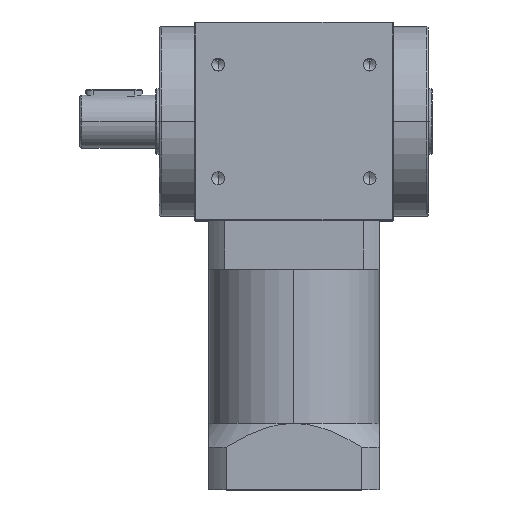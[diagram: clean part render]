
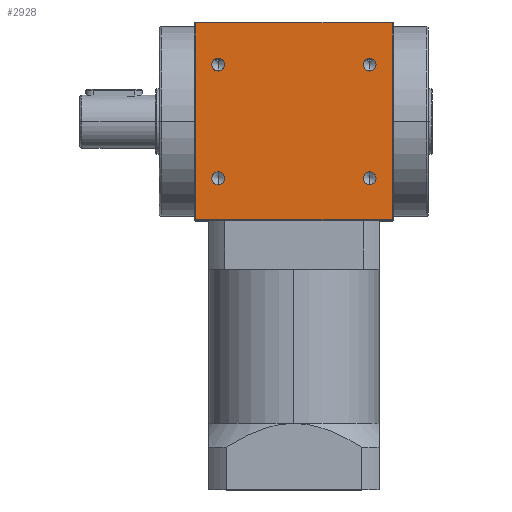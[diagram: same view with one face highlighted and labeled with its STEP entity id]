
A CAD part, top view. The second image highlights one B-rep face of the part: STEP entity #2928.
In plain terms, the highlighted planar face has unit normal (0, 0, 1).
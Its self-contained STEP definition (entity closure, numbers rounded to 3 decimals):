
#76 = VERTEX_POINT ( 'NONE', #6236 ) ;
#198 = EDGE_CURVE ( 'NONE', #7281, #4030, #6293, .T. ) ;
#220 = EDGE_CURVE ( 'NONE', #536, #715, #2774, .T. ) ;
#256 = EDGE_CURVE ( 'NONE', #1631, #2220, #698, .T. ) ;
#271 = EDGE_CURVE ( 'NONE', #459, #1484, #552, .T. ) ;
#383 = DIRECTION ( 'NONE',  ( 0., 0., 1. ) ) ;
#450 = EDGE_CURVE ( 'NONE', #7748, #7417, #6952, .T. ) ;
#459 = VERTEX_POINT ( 'NONE', #8191 ) ;
#463 = EDGE_CURVE ( 'NONE', #7417, #1918, #5441, .T. ) ;
#487 = EDGE_CURVE ( 'NONE', #1918, #76, #5657, .T. ) ;
#490 = EDGE_CURVE ( 'NONE', #76, #7748, #6283, .T. ) ;
#536 = VERTEX_POINT ( 'NONE', #5903 ) ;
#538 = CARTESIAN_POINT ( 'NONE',  ( 52., 52., 52.5 ) ) ;
#548 = DIRECTION ( 'NONE',  ( 0., 0., 1. ) ) ;
#552 = CIRCLE ( 'NONE', #6665, 3.4 ) ;
#615 = CARTESIAN_POINT ( 'NONE',  ( 40., -26.6, 52.5 ) ) ;
#698 = CIRCLE ( 'NONE', #6755, 3.4 ) ;
#711 = CARTESIAN_POINT ( 'NONE',  ( -40., -26.6, 52.5 ) ) ;
#715 = VERTEX_POINT ( 'NONE', #711 ) ;
#1027 = ORIENTED_EDGE ( 'NONE', *, *, #5943, .F. ) ;
#1042 = CIRCLE ( 'NONE', #2473, 3.4 ) ;
#1351 = FACE_BOUND ( 'NONE', #3011, .T. ) ;
#1484 = VERTEX_POINT ( 'NONE', #2940 ) ;
#1631 = VERTEX_POINT ( 'NONE', #3493 ) ;
#1721 = ORIENTED_EDGE ( 'NONE', *, *, #198, .F. ) ;
#1739 = CARTESIAN_POINT ( 'NONE',  ( 0., 0., 52.5 ) ) ;
#1746 = ORIENTED_EDGE ( 'NONE', *, *, #6607, .F. ) ;
#1918 = VERTEX_POINT ( 'NONE', #8339 ) ;
#2174 = AXIS2_PLACEMENT_3D ( 'NONE', #4412, #383, #5095 ) ;
#2201 = AXIS2_PLACEMENT_3D ( 'NONE', #6983, #3003, #7613 ) ;
#2220 = VERTEX_POINT ( 'NONE', #3099 ) ;
#2243 = ORIENTED_EDGE ( 'NONE', *, *, #6643, .F. ) ;
#2402 = FACE_BOUND ( 'NONE', #8332, .T. ) ;
#2425 = DIRECTION ( 'NONE',  ( -1., 0., 0. ) ) ;
#2472 = DIRECTION ( 'NONE',  ( 0., -1., 0. ) ) ;
#2473 = AXIS2_PLACEMENT_3D ( 'NONE', #7549, #3593, #8215 ) ;
#2499 = DIRECTION ( 'NONE',  ( 0., 0., 1. ) ) ;
#2568 = CARTESIAN_POINT ( 'NONE',  ( -40., 30., 52.5 ) ) ;
#2611 = AXIS2_PLACEMENT_3D ( 'NONE', #4573, #548, #5247 ) ;
#2774 = CIRCLE ( 'NONE', #6875, 3.4 ) ;
#2856 = CIRCLE ( 'NONE', #2174, 3.4 ) ;
#2928 = ADVANCED_FACE ( 'NONE', ( #6160, #1351, #2402, #7285, #3220 ), #6405, .F. ) ;
#2940 = CARTESIAN_POINT ( 'NONE',  ( -40., 33.4, 52.5 ) ) ;
#2945 = CARTESIAN_POINT ( 'NONE',  ( 52., -52., 52.5 ) ) ;
#3003 = DIRECTION ( 'NONE',  ( 0., 0., 1. ) ) ;
#3011 = EDGE_LOOP ( 'NONE', ( #5435, #6599 ) ) ;
#3012 = DIRECTION ( 'NONE',  ( 0., -1., 0. ) ) ;
#3066 = DIRECTION ( 'NONE',  ( 0., 0., 1. ) ) ;
#3091 = CARTESIAN_POINT ( 'NONE',  ( 40., 30., 52.5 ) ) ;
#3099 = CARTESIAN_POINT ( 'NONE',  ( 40., 33.4, 52.5 ) ) ;
#3220 = FACE_BOUND ( 'NONE', #4637, .T. ) ;
#3493 = CARTESIAN_POINT ( 'NONE',  ( 40., 26.6, 52.5 ) ) ;
#3593 = DIRECTION ( 'NONE',  ( 0., 0., 1. ) ) ;
#3594 = VECTOR ( 'NONE', #8132, 1000. ) ;
#3787 = AXIS2_PLACEMENT_3D ( 'NONE', #1739, #6440, #2425 ) ;
#3873 = ORIENTED_EDGE ( 'NONE', *, *, #450, .T. ) ;
#4030 = VERTEX_POINT ( 'NONE', #615 ) ;
#4196 = DIRECTION ( 'NONE',  ( 0., -1., 0. ) ) ;
#4215 = DIRECTION ( 'NONE',  ( 0., 0., 1. ) ) ;
#4224 = CARTESIAN_POINT ( 'NONE',  ( -40., -30., 52.5 ) ) ;
#4412 = CARTESIAN_POINT ( 'NONE',  ( -40., -30., 52.5 ) ) ;
#4573 = CARTESIAN_POINT ( 'NONE',  ( -40., 30., 52.5 ) ) ;
#4637 = EDGE_LOOP ( 'NONE', ( #1721, #1746 ) ) ;
#4734 = VECTOR ( 'NONE', #7070, 1000. ) ;
#4807 = ORIENTED_EDGE ( 'NONE', *, *, #463, .T. ) ;
#4843 = DIRECTION ( 'NONE',  ( 0., -1., 0. ) ) ;
#4884 = DIRECTION ( 'NONE',  ( 0., 0., 1. ) ) ;
#4900 = CARTESIAN_POINT ( 'NONE',  ( 40., -30., 52.5 ) ) ;
#5095 = DIRECTION ( 'NONE',  ( 0., -1., 0. ) ) ;
#5236 = EDGE_CURVE ( 'NONE', #1484, #459, #7681, .T. ) ;
#5247 = DIRECTION ( 'NONE',  ( 0., -1., 0. ) ) ;
#5295 = EDGE_LOOP ( 'NONE', ( #3873, #4807, #6097, #7082 ) ) ;
#5435 = ORIENTED_EDGE ( 'NONE', *, *, #271, .F. ) ;
#5441 = LINE ( 'NONE', #8457, #3594 ) ;
#5657 = LINE ( 'NONE', #8043, #8134 ) ;
#5903 = CARTESIAN_POINT ( 'NONE',  ( -40., -33.4, 52.5 ) ) ;
#5943 = EDGE_CURVE ( 'NONE', #2220, #1631, #1042, .T. ) ;
#5969 = ORIENTED_EDGE ( 'NONE', *, *, #256, .F. ) ;
#6097 = ORIENTED_EDGE ( 'NONE', *, *, #487, .T. ) ;
#6104 = VECTOR ( 'NONE', #8394, 1000. ) ;
#6160 = FACE_OUTER_BOUND ( 'NONE', #5295, .T. ) ;
#6236 = CARTESIAN_POINT ( 'NONE',  ( -52., -52., 52.5 ) ) ;
#6283 = LINE ( 'NONE', #7131, #4734 ) ;
#6293 = CIRCLE ( 'NONE', #6944, 3.4 ) ;
#6405 = PLANE ( 'NONE',  #3787 ) ;
#6440 = DIRECTION ( 'NONE',  ( 0., 0., -1. ) ) ;
#6599 = ORIENTED_EDGE ( 'NONE', *, *, #5236, .F. ) ;
#6607 = EDGE_CURVE ( 'NONE', #4030, #7281, #8158, .T. ) ;
#6643 = EDGE_CURVE ( 'NONE', #715, #536, #2856, .T. ) ;
#6665 = AXIS2_PLACEMENT_3D ( 'NONE', #2568, #2499, #2472 ) ;
#6755 = AXIS2_PLACEMENT_3D ( 'NONE', #3091, #3066, #3012 ) ;
#6875 = AXIS2_PLACEMENT_3D ( 'NONE', #4224, #4215, #4196 ) ;
#6944 = AXIS2_PLACEMENT_3D ( 'NONE', #4900, #4884, #4843 ) ;
#6952 = LINE ( 'NONE', #8540, #6104 ) ;
#6983 = CARTESIAN_POINT ( 'NONE',  ( 40., -30., 52.5 ) ) ;
#7070 = DIRECTION ( 'NONE',  ( 1., 0., 0. ) ) ;
#7082 = ORIENTED_EDGE ( 'NONE', *, *, #490, .T. ) ;
#7131 = CARTESIAN_POINT ( 'NONE',  ( 0., -52., 52.5 ) ) ;
#7216 = CARTESIAN_POINT ( 'NONE',  ( 40., -33.4, 52.5 ) ) ;
#7281 = VERTEX_POINT ( 'NONE', #7216 ) ;
#7285 = FACE_BOUND ( 'NONE', #7781, .T. ) ;
#7417 = VERTEX_POINT ( 'NONE', #538 ) ;
#7549 = CARTESIAN_POINT ( 'NONE',  ( 40., 30., 52.5 ) ) ;
#7613 = DIRECTION ( 'NONE',  ( 0., -1., 0. ) ) ;
#7616 = DIRECTION ( 'NONE',  ( 0., -1., 0. ) ) ;
#7681 = CIRCLE ( 'NONE', #2611, 3.4 ) ;
#7748 = VERTEX_POINT ( 'NONE', #2945 ) ;
#7781 = EDGE_LOOP ( 'NONE', ( #8444, #2243 ) ) ;
#8043 = CARTESIAN_POINT ( 'NONE',  ( -52., 0., 52.5 ) ) ;
#8132 = DIRECTION ( 'NONE',  ( -1., 0., 0. ) ) ;
#8134 = VECTOR ( 'NONE', #7616, 1000. ) ;
#8158 = CIRCLE ( 'NONE', #2201, 3.4 ) ;
#8191 = CARTESIAN_POINT ( 'NONE',  ( -40., 26.6, 52.5 ) ) ;
#8215 = DIRECTION ( 'NONE',  ( 0., -1., 0. ) ) ;
#8332 = EDGE_LOOP ( 'NONE', ( #5969, #1027 ) ) ;
#8339 = CARTESIAN_POINT ( 'NONE',  ( -52., 52., 52.5 ) ) ;
#8394 = DIRECTION ( 'NONE',  ( 0., 1., 0. ) ) ;
#8444 = ORIENTED_EDGE ( 'NONE', *, *, #220, .F. ) ;
#8457 = CARTESIAN_POINT ( 'NONE',  ( 0., 52., 52.5 ) ) ;
#8540 = CARTESIAN_POINT ( 'NONE',  ( 52., 0., 52.5 ) ) ;
